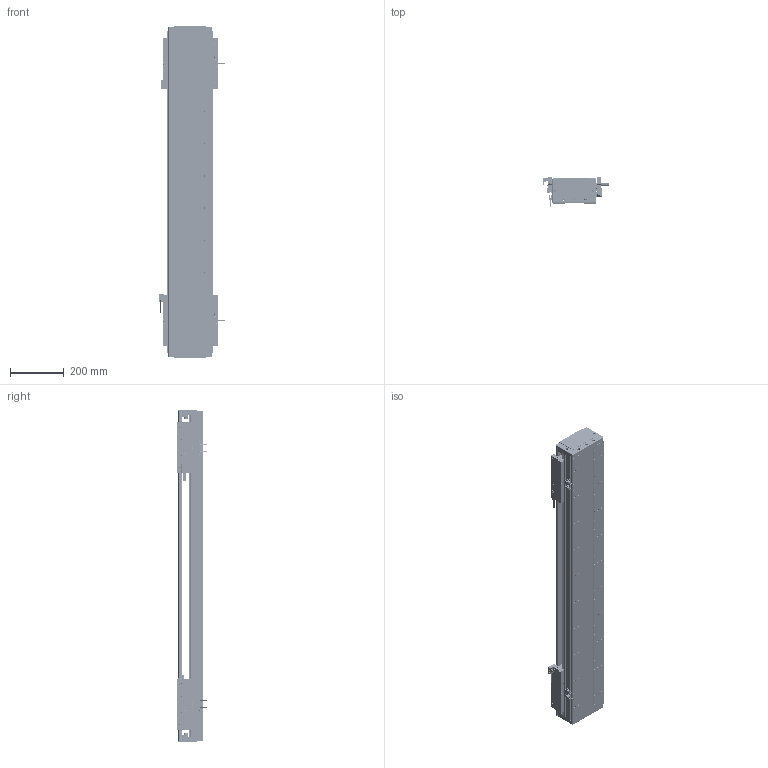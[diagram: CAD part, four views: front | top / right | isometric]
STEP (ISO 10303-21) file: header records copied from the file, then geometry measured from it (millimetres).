
FILE_DESCRIPTION (( 'STEP AP203' ), '1' );
FILE_NAME ('DA-C165-2-C2-T740-C010-0.2 直线电机.STEP', '2023-05-11T08:17:48', ( '微软用户' ), ( '微软中国' ), 'SwSTEP 2.0', 'SolidWorks 2019', '' );
FILE_SCHEMA (( 'CONFIG_CONTROL_DESIGN' ));
Length unit declared in the file: millimetre
Products named in the file (19): 葩璃 PM-Y45^DA-C165-C2-T-C010-0.2-N 眻盄萇儂; IU-CU165-L-00 菁釱_L1200; DA-C165-2-C2-T740-C010-0.2 眻盄萇儂; 复件 DA126-GYP-ZJ-00 中间光电感应片^DA-C165-C2-T-C010-0.2-N 直线电机; 珨极趙賑雄怢啣wf-C2; 复件 DKW-HXJ-JY-00 缓冲橡胶^DA-C165-C2-T-C010-0.2-N 直线电机; 复件 CKM02-W075-C1C2-TP-3.0 一体电机-C2^DA-C165-C2-T-C010-0.2-N 直线电机; 复件 66338-1000-006-00 光电感应块^DA-C165-C2-T-C010-0.2-N 直线电机; 复件 六角薄螺母 M3^DA-C165-C2-T-C010-0.2-N 直线电机_GB_FASTENER_NUT_STNAB M3-C; 复件 DA165-T-002-00 盖板^DA-C165-C2-T-C010-0.2-N 直线电机_0840-002-00; 葩璃 PM-T45^DA-C165-C2-T-C010-0.2-N 眻盄萇儂; IU-CU165-L 菁釱絳寢; 复件 DA95-HXJ-00 缓冲橡胶^DA-C165-C2-T-C010-0.2-N 直线电机; 葩璃 DA95-GT-T-00^IU-CU165-L 菁釱絳寢_T; 复件 DMA-010-0.2 读数头^DA-C165-C2-T-C010-0.2-N 直线电机; 葩璃 CKM01-W075-TRL^DA-C165-C2-T-C010-0.2-N 眻盄萇儂; 复件 DA165-GYP-00 光电感应片^DA-C165-C2-T-C010-0.2-N 直线电机; 复件 XD-U-02L 磁栅尺^DA-C165-C2-T-C010-0.2-N 直线电机_T; 复件 DA165-DG-H-N-00 端盖^DA-C165-C2-T-C010-0.2-N 直线电机
Assembly tree (38 placements, depth 3):
  DA-C165-2-C2-T740-C010-0.2 眻盄萇儂
    IU-CU165-L 菁釱絳寢
      IU-CU165-L-00 菁釱_L1200
      葩璃 DA95-GT-T-00^IU-CU165-L 菁釱絳寢_T  x4
    复件 DA165-DG-H-N-00 端盖^DA-C165-C2-T-C010-0.2-N 直线电机  x2
    复件 DA95-HXJ-00 缓冲橡胶^DA-C165-C2-T-C010-0.2-N 直线电机  x4
    复件 DA165-T-002-00 盖板^DA-C165-C2-T-C010-0.2-N 直线电机_0840-002-00
    复件 XD-U-02L 磁栅尺^DA-C165-C2-T-C010-0.2-N 直线电机_T
    葩璃 PM-T45^DA-C165-C2-T-C010-0.2-N 眻盄萇儂  x4
    葩璃 CKM01-W075-TRL^DA-C165-C2-T-C010-0.2-N 眻盄萇儂
    复件 CKM02-W075-C1C2-TP-3.0 一体电机-C2^DA-C165-C2-T-C010-0.2-N 直线电机  x2
    复件 DMA-010-0.2 读数头^DA-C165-C2-T-C010-0.2-N 直线电机  x2
    复件 DA165-GYP-00 光电感应片^DA-C165-C2-T-C010-0.2-N 直线电机  x2
    复件 66338-1000-006-00 光电感应块^DA-C165-C2-T-C010-0.2-N 直线电机
    葩璃 PM-Y45^DA-C165-C2-T-C010-0.2-N 眻盄萇儂
    复件 DA126-GYP-ZJ-00 中间光电感应片^DA-C165-C2-T-C010-0.2-N 直线电机
    复件 DKW-HXJ-JY-00 缓冲橡胶^DA-C165-C2-T-C010-0.2-N 直线电机  x2
    复件 六角薄螺母 M3^DA-C165-C2-T-C010-0.2-N 直线电机_GB_FASTENER_NUT_STNAB M3-C  x6
    珨极趙賑雄怢啣wf-C2  x2
Bounding box: 247.2 x 111.45 x 1240 mm (x, y, z)
Volume: 10354349.6 mm3; surface area: 2719727 mm2
Topology: 115 solids, 115 shells, 4928 faces, 13209 edges, 8230 vertices
Faces by surface type: cylinder 2382, plane 1770, cone 680, torus 88, sphere 8
Entity records: 101512 total; most frequent: CARTESIAN_POINT 23706, DIRECTION 15893, ORIENTED_EDGE 15664, EDGE_CURVE 7832, AXIS2_PLACEMENT_3D 5932, VERTEX_POINT 5067, LINE 4029, VECTOR 4029
